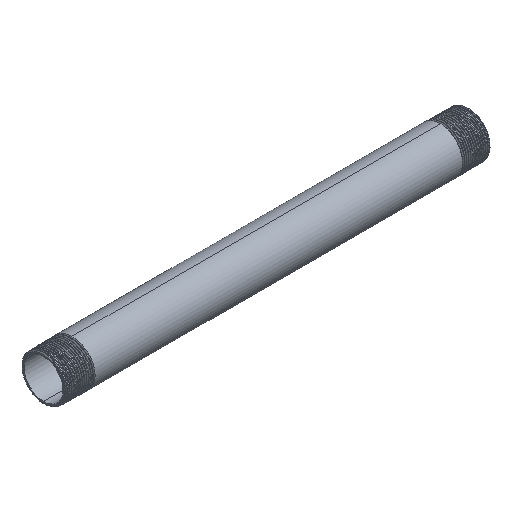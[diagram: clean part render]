
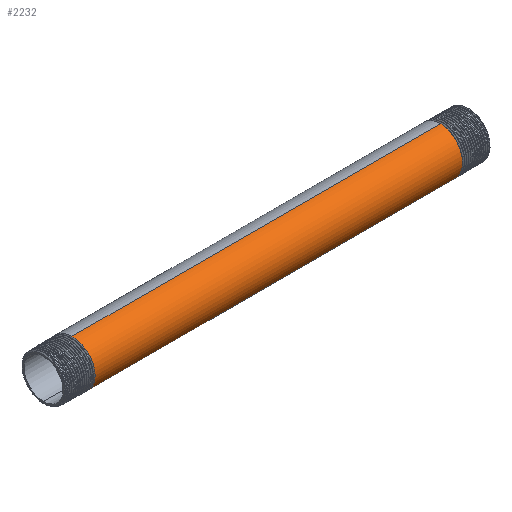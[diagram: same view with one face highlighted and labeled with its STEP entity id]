
A CAD part, isometric view. The second image highlights one B-rep face of the part: STEP entity #2232.
In plain terms, the highlighted cylindrical face has radius 10.65 mm (diameter 21.3 mm), a partial arc.
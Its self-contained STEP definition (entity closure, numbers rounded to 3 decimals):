
#27 = VERTEX_POINT ( 'NONE', #470 ) ;
#29 =( BOUNDED_CURVE ( )  B_SPLINE_CURVE ( 2, ( #2754, #11201, #1003, #7792, #10439, #11257, #2587, #5240, #1909 ),
 .UNSPECIFIED., .F., .F. ) 
 B_SPLINE_CURVE_WITH_KNOTS ( ( 3, 2, 2, 2, 3 ),
 ( 0., 0.007, 0.014, 0.021, 0.028 ),
 .UNSPECIFIED. ) 
 CURVE ( )  GEOMETRIC_REPRESENTATION_ITEM ( )  RATIONAL_B_SPLINE_CURVE ( ( 1., 0.924, 1., 0.924, 1., 0.924, 1., 0.924, 1. ) ) 
 REPRESENTATION_ITEM ( '' )  );
#248 = CARTESIAN_POINT ( 'NONE',  ( -86.625, 0., 10.65 ) ) ;
#307 = DIRECTION ( 'NONE',  ( -1., 0., 0. ) ) ;
#470 = CARTESIAN_POINT ( 'NONE',  ( -86.625, 0., 10.65 ) ) ;
#721 = CARTESIAN_POINT ( 'NONE',  ( -86.125, 0., -10.65 ) ) ;
#828 = CARTESIAN_POINT ( 'NONE',  ( -86.438, -10.65, 4.411 ) ) ;
#1003 = CARTESIAN_POINT ( 'NONE',  ( 86.25, -7.531, -7.531 ) ) ;
#1044 = DIRECTION ( 'NONE',  ( -1., 0., 0. ) ) ;
#1318 = CARTESIAN_POINT ( 'NONE',  ( -86.125, 0., -10.65 ) ) ;
#1688 = ORIENTED_EDGE ( 'NONE', *, *, #7351, .F. ) ;
#1909 = CARTESIAN_POINT ( 'NONE',  ( 86.625, 0., 10.65 ) ) ;
#2106 = CARTESIAN_POINT ( 'NONE',  ( 86.625, 0., 10.65 ) ) ;
#2153 = CARTESIAN_POINT ( 'NONE',  ( 86.125, 0., -10.65 ) ) ;
#2232 = ADVANCED_FACE ( 'NONE', ( #3606 ), #7047, .T. ) ;
#2461 = VERTEX_POINT ( 'NONE', #2106 ) ;
#2587 = CARTESIAN_POINT ( 'NONE',  ( 86.5, -7.531, 7.531 ) ) ;
#2738 = LINE ( 'NONE', #2796, #6877 ) ;
#2751 = CARTESIAN_POINT ( 'NONE',  ( -149.494, 0., 0. ) ) ;
#2754 = CARTESIAN_POINT ( 'NONE',  ( 86.125, 0., -10.65 ) ) ;
#2778 = EDGE_CURVE ( 'NONE', #10826, #2461, #29, .T. ) ;
#2796 = CARTESIAN_POINT ( 'NONE',  ( -149.494, 0., -10.65 ) ) ;
#3306 = CARTESIAN_POINT ( 'NONE',  ( -149.494, 0., 10.65 ) ) ;
#3606 = FACE_OUTER_BOUND ( 'NONE', #8721, .T. ) ;
#5129 = CARTESIAN_POINT ( 'NONE',  ( -86.375, -10.65, 0. ) ) ;
#5240 = CARTESIAN_POINT ( 'NONE',  ( 86.563, -4.411, 10.65 ) ) ;
#5748 = EDGE_CURVE ( 'NONE', #2461, #27, #9558, .T. ) ;
#5956 = VERTEX_POINT ( 'NONE', #1318 ) ;
#6715 = CARTESIAN_POINT ( 'NONE',  ( -86.188, -4.411, -10.65 ) ) ;
#6769 = CARTESIAN_POINT ( 'NONE',  ( -86.25, -7.531, -7.531 ) ) ;
#6877 = VECTOR ( 'NONE', #1044, 1000. ) ;
#7047 = CYLINDRICAL_SURFACE ( 'NONE', #7420, 10.65 ) ;
#7101 = DIRECTION ( 'NONE',  ( 0., 0., 1. ) ) ;
#7167 = ORIENTED_EDGE ( 'NONE', *, *, #10500, .F. ) ;
#7351 = EDGE_CURVE ( 'NONE', #10826, #5956, #2738, .T. ) ;
#7420 = AXIS2_PLACEMENT_3D ( 'NONE', #2751, #307, #7101 ) ;
#7792 = CARTESIAN_POINT ( 'NONE',  ( 86.313, -10.65, -4.411 ) ) ;
#7802 = ORIENTED_EDGE ( 'NONE', *, *, #5748, .T. ) ;
#8065 = CARTESIAN_POINT ( 'NONE',  ( -86.563, -4.411, 10.65 ) ) ;
#8703 = CARTESIAN_POINT ( 'NONE',  ( -86.5, -7.531, 7.531 ) ) ;
#8721 = EDGE_LOOP ( 'NONE', ( #1688, #10733, #7802, #7167 ) ) ;
#9558 = LINE ( 'NONE', #3306, #9983 ) ;
#9983 = VECTOR ( 'NONE', #10244, 1000. ) ;
#10244 = DIRECTION ( 'NONE',  ( -1., 0., 0. ) ) ;
#10317 = CARTESIAN_POINT ( 'NONE',  ( -86.313, -10.65, -4.411 ) ) ;
#10439 = CARTESIAN_POINT ( 'NONE',  ( 86.375, -10.65, 0. ) ) ;
#10500 = EDGE_CURVE ( 'NONE', #5956, #27, #11241, .T. ) ;
#10733 = ORIENTED_EDGE ( 'NONE', *, *, #2778, .T. ) ;
#10826 = VERTEX_POINT ( 'NONE', #2153 ) ;
#11201 = CARTESIAN_POINT ( 'NONE',  ( 86.188, -4.411, -10.65 ) ) ;
#11241 =( BOUNDED_CURVE ( )  B_SPLINE_CURVE ( 2, ( #721, #6715, #6769, #10317, #5129, #828, #8703, #8065, #248 ),
 .UNSPECIFIED., .F., .F. ) 
 B_SPLINE_CURVE_WITH_KNOTS ( ( 3, 2, 2, 2, 3 ),
 ( 0., 0.007, 0.014, 0.021, 0.028 ),
 .UNSPECIFIED. ) 
 CURVE ( )  GEOMETRIC_REPRESENTATION_ITEM ( )  RATIONAL_B_SPLINE_CURVE ( ( 1., 0.924, 1., 0.924, 1., 0.924, 1., 0.924, 1. ) ) 
 REPRESENTATION_ITEM ( '' )  );
#11257 = CARTESIAN_POINT ( 'NONE',  ( 86.438, -10.65, 4.411 ) ) ;
